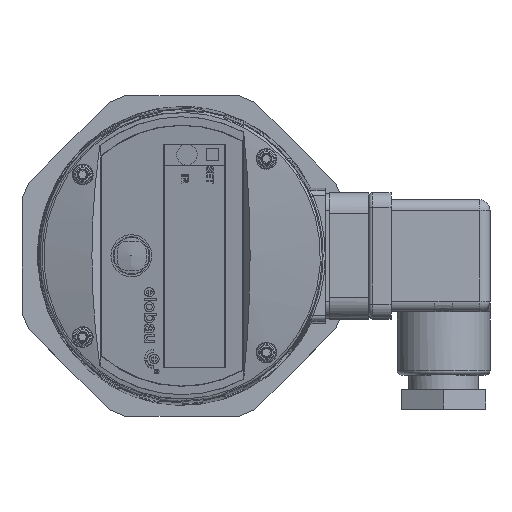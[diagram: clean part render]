
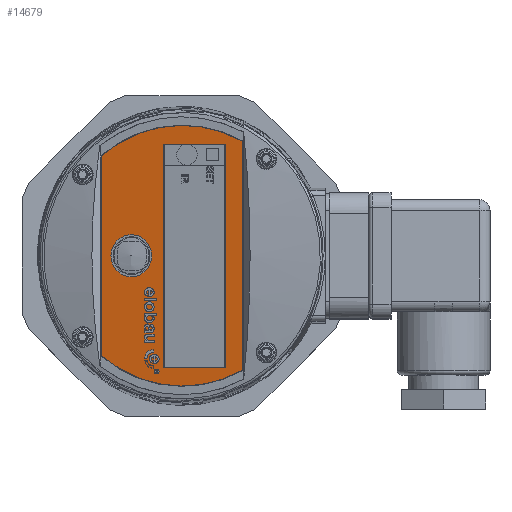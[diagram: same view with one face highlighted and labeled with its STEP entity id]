
A CAD part, top view. The second image highlights one B-rep face of the part: STEP entity #14679.
In plain terms, the highlighted planar face has unit normal (-0.259, 0, 0.966).
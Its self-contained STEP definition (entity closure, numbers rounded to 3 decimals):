
#5268=PLANE('',#48141);
#7289=LINE('',#117499,#9673);
#7290=LINE('',#117504,#9674);
#7291=LINE('',#117507,#9675);
#7292=LINE('',#117510,#9676);
#7293=LINE('',#117512,#9677);
#7294=LINE('',#117514,#9678);
#9673=VECTOR('',#56777,1.);
#9674=VECTOR('',#56780,1.);
#9675=VECTOR('',#56783,1.);
#9676=VECTOR('',#56784,1.);
#9677=VECTOR('',#56785,1.);
#9678=VECTOR('',#56786,1.);
#14679=ADVANCED_FACE('',(#17244,#17245,#17246),#5268,.F.);
#16560=CIRCLE('',#48138,5.);
#16561=CIRCLE('',#48139,30.95);
#16562=CIRCLE('',#48140,30.95);
#17244=FACE_BOUND('',#19946,.T.);
#17245=FACE_BOUND('',#19947,.T.);
#17246=FACE_BOUND('',#19948,.T.);
#19946=EDGE_LOOP('',(#31720));
#19947=EDGE_LOOP('',(#31721,#31722,#31723,#31724));
#19948=EDGE_LOOP('',(#31725,#31726,#31727,#31728));
#31720=ORIENTED_EDGE('',*,*,#42059,.T.);
#31721=ORIENTED_EDGE('',*,*,#42060,.T.);
#31722=ORIENTED_EDGE('',*,*,#42061,.T.);
#31723=ORIENTED_EDGE('',*,*,#42062,.T.);
#31724=ORIENTED_EDGE('',*,*,#42063,.T.);
#31725=ORIENTED_EDGE('',*,*,#42064,.T.);
#31726=ORIENTED_EDGE('',*,*,#42065,.T.);
#31727=ORIENTED_EDGE('',*,*,#42066,.T.);
#31728=ORIENTED_EDGE('',*,*,#42067,.T.);
#36067=VERTEX_POINT('',#117498);
#36068=VERTEX_POINT('',#117500);
#36069=VERTEX_POINT('',#117501);
#36070=VERTEX_POINT('',#117503);
#36071=VERTEX_POINT('',#117505);
#36072=VERTEX_POINT('',#117508);
#36073=VERTEX_POINT('',#117509);
#36074=VERTEX_POINT('',#117511);
#36075=VERTEX_POINT('',#117513);
#42059=EDGE_CURVE('',#36067,#36067,#16560,.T.);
#42060=EDGE_CURVE('',#36068,#36069,#7289,.T.);
#42061=EDGE_CURVE('',#36069,#36070,#16561,.T.);
#42062=EDGE_CURVE('',#36070,#36071,#7290,.T.);
#42063=EDGE_CURVE('',#36071,#36068,#16562,.T.);
#42064=EDGE_CURVE('',#36072,#36073,#7291,.T.);
#42065=EDGE_CURVE('',#36073,#36074,#7292,.T.);
#42066=EDGE_CURVE('',#36074,#36075,#7293,.T.);
#42067=EDGE_CURVE('',#36075,#36072,#7294,.T.);
#48138=AXIS2_PLACEMENT_3D('',#117497,#56775,#56776);
#48139=AXIS2_PLACEMENT_3D('',#117502,#56778,#56779);
#48140=AXIS2_PLACEMENT_3D('',#117506,#56781,#56782);
#48141=AXIS2_PLACEMENT_3D('',#117515,#56787,#56788);
#56775=DIRECTION('',(0.259,0.,-0.966));
#56776=DIRECTION('',(0.966,0.,0.259));
#56777=DIRECTION('',(0.,1.,0.));
#56778=DIRECTION('',(-0.259,0.,0.966));
#56779=DIRECTION('',(0.,-1.,0.));
#56780=DIRECTION('',(0.,-1.,0.));
#56781=DIRECTION('',(-0.259,0.,0.966));
#56782=DIRECTION('',(0.,-1.,0.));
#56783=DIRECTION('',(0.,1.,0.));
#56784=DIRECTION('',(0.966,0.,0.259));
#56785=DIRECTION('',(0.,-1.,0.));
#56786=DIRECTION('',(-0.966,0.,-0.259));
#56787=DIRECTION('',(0.259,0.,-0.966));
#56788=DIRECTION('',(0.966,0.,0.259));
#117497=CARTESIAN_POINT('',(-12.048,0.,38.868));
#117498=CARTESIAN_POINT('',(-7.219,0.,40.162));
#117499=CARTESIAN_POINT('',(14.322,27.182,45.934));
#117500=CARTESIAN_POINT('',(14.322,-27.182,45.934));
#117501=CARTESIAN_POINT('',(14.322,27.182,45.934));
#117502=CARTESIAN_POINT('',(0.026,0.,42.103));
#117503=CARTESIAN_POINT('',(-19.196,23.704,36.953));
#117504=CARTESIAN_POINT('',(-19.196,-23.704,36.953));
#117505=CARTESIAN_POINT('',(-19.196,-23.704,36.953));
#117506=CARTESIAN_POINT('',(0.026,0.,42.103));
#117507=CARTESIAN_POINT('',(-4.321,0.,40.939));
#117508=CARTESIAN_POINT('',(-4.321,-26.5,40.939));
#117509=CARTESIAN_POINT('',(-4.321,26.5,40.939));
#117510=CARTESIAN_POINT('',(0.026,26.5,42.103));
#117511=CARTESIAN_POINT('',(10.168,26.5,44.821));
#117512=CARTESIAN_POINT('',(10.168,0.,44.821));
#117513=CARTESIAN_POINT('',(10.168,-26.5,44.821));
#117514=CARTESIAN_POINT('',(0.026,-26.5,42.103));
#117515=CARTESIAN_POINT('',(0.026,0.,42.103));
